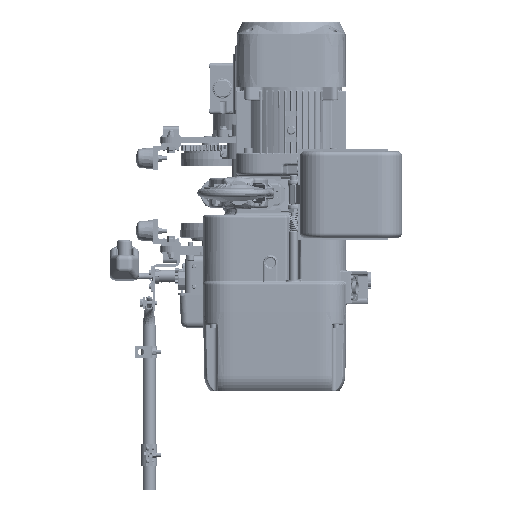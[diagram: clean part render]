
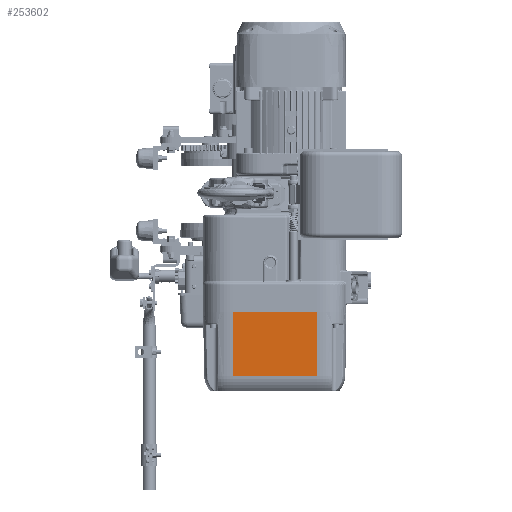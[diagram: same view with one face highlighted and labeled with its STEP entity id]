
A CAD part, front view. The second image highlights one B-rep face of the part: STEP entity #253602.
In plain terms, the highlighted planar face has unit normal (0, -1, -0.018) as drawn and (0, -1, 0.017) by its records, which use the part's own axes.
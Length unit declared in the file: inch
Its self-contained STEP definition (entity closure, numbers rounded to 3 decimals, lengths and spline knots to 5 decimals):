
#12728 = CARTESIAN_POINT ( 'NONE',  ( 3.4341, -4.65327, 5.20322 ) ) ;
#34139 = CARTESIAN_POINT ( 'NONE',  ( 3.4341, -4.74409, 0. ) ) ;
#49940 = CARTESIAN_POINT ( 'NONE',  ( -3.4341, -4.74409, 0. ) ) ;
#50321 = DIRECTION ( 'NONE',  ( -1., 0., 0. ) ) ;
#88500 = DIRECTION ( 'NONE',  ( 0., -0.017, -1. ) ) ;
#110600 = CARTESIAN_POINT ( 'NONE',  ( -3.4341, -4.65327, 5.20322 ) ) ;
#111504 = VECTOR ( 'NONE', #299767, 39.37008 ) ;
#117337 = EDGE_CURVE ( 'NONE', #214202, #237266, #119955, .T. ) ;
#119955 = LINE ( 'NONE', #256716, #111504 ) ;
#160594 = LINE ( 'NONE', #232547, #257381 ) ;
#185291 = VECTOR ( 'NONE', #196214, 39.37008 ) ;
#191492 = LINE ( 'NONE', #49940, #185291 ) ;
#196214 = DIRECTION ( 'NONE',  ( 0., -0.017, -1. ) ) ;
#201781 = VERTEX_POINT ( 'NONE', #110600 ) ;
#202730 = CARTESIAN_POINT ( 'NONE',  ( 3.4341, -4.74409, 0. ) ) ;
#208096 = EDGE_CURVE ( 'NONE', #201781, #237266, #191492, .T. ) ;
#214202 = VERTEX_POINT ( 'NONE', #202730 ) ;
#215918 = EDGE_CURVE ( 'NONE', #414950, #214202, #331257, .T. ) ;
#232547 = CARTESIAN_POINT ( 'NONE',  ( 3.4341, -4.65327, 5.20322 ) ) ;
#237266 = VERTEX_POINT ( 'NONE', #297193 ) ;
#253602 = ADVANCED_FACE ( 'NONE', ( #265875 ), #340151, .T. ) ;
#256716 = CARTESIAN_POINT ( 'NONE',  ( 0., -4.74409, 0. ) ) ;
#257381 = VECTOR ( 'NONE', #50321, 39.37008 ) ;
#263542 = DIRECTION ( 'NONE',  ( 0., -1., 0.017 ) ) ;
#265875 = FACE_OUTER_BOUND ( 'NONE', #333755, .T. ) ;
#284311 = ORIENTED_EDGE ( 'NONE', *, *, #117337, .F. ) ;
#297193 = CARTESIAN_POINT ( 'NONE',  ( -3.4341, -4.74409, 0. ) ) ;
#299767 = DIRECTION ( 'NONE',  ( -1., 0., 0. ) ) ;
#301813 = CARTESIAN_POINT ( 'NONE',  ( 0., -4.74409, 0. ) ) ;
#327939 = VECTOR ( 'NONE', #357756, 39.37008 ) ;
#331257 = LINE ( 'NONE', #34139, #327939 ) ;
#333755 = EDGE_LOOP ( 'NONE', ( #350172, #361483, #284311, #436794 ) ) ;
#340151 = PLANE ( 'NONE',  #370773 ) ;
#350172 = ORIENTED_EDGE ( 'NONE', *, *, #383323, .T. ) ;
#357756 = DIRECTION ( 'NONE',  ( 0., -0.017, -1. ) ) ;
#361483 = ORIENTED_EDGE ( 'NONE', *, *, #208096, .T. ) ;
#370773 = AXIS2_PLACEMENT_3D ( 'NONE', #301813, #263542, #88500 ) ;
#383323 = EDGE_CURVE ( 'NONE', #414950, #201781, #160594, .T. ) ;
#414950 = VERTEX_POINT ( 'NONE', #12728 ) ;
#436794 = ORIENTED_EDGE ( 'NONE', *, *, #215918, .F. ) ;
